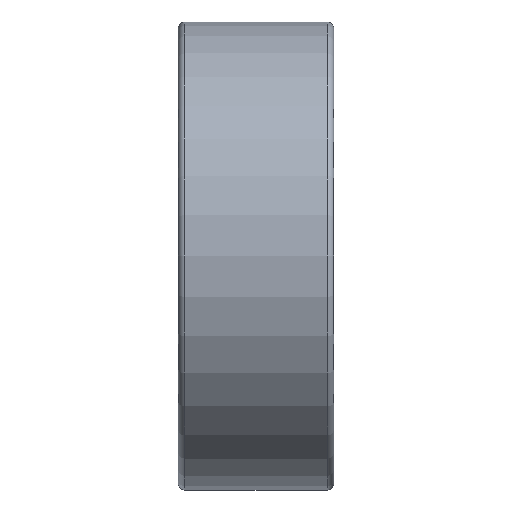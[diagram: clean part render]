
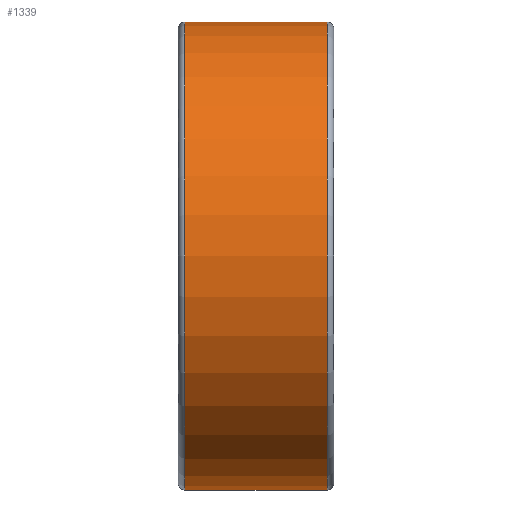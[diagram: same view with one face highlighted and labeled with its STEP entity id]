
A CAD part, front view. The second image highlights one B-rep face of the part: STEP entity #1339.
In plain terms, the highlighted cylindrical face has radius 140 mm (diameter 280 mm), a full revolution.
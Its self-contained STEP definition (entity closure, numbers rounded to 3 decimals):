
#215=CYLINDRICAL_SURFACE($,#1457,140.);
#273=FACE_BOUND($,#454,.T.);
#364=FACE_OUTER_BOUND($,#453,.T.);
#453=EDGE_LOOP($,(#1031));
#454=EDGE_LOOP($,(#1032));
#596=CIRCLE($,#1456,140.);
#597=CIRCLE($,#1458,140.);
#724=VERTEX_POINT($,#2227);
#725=VERTEX_POINT($,#2230);
#852=EDGE_CURVE($,#724,#724,#596,.T.);
#853=EDGE_CURVE($,#725,#725,#597,.T.);
#1031=ORIENTED_EDGE($,*,*,#852,.T.);
#1032=ORIENTED_EDGE($,*,*,#853,.F.);
#1339=ADVANCED_FACE($,(#364,#273),#215,.T.);
#1456=AXIS2_PLACEMENT_3D($,#2228,#1738,#1739);
#1457=AXIS2_PLACEMENT_3D($,#2229,#1740,#1741);
#1458=AXIS2_PLACEMENT_3D($,#2231,#1742,#1743);
#1738=DIRECTION('center_axis',(-1.,0.,0.));
#1739=DIRECTION('ref_axis',(0.,0.,1.));
#1740=DIRECTION('center_axis',(-1.,0.,0.));
#1741=DIRECTION('ref_axis',(0.,-1.,0.));
#1742=DIRECTION('center_axis',(-1.,0.,0.));
#1743=DIRECTION('ref_axis',(0.,0.,1.));
#2227=CARTESIAN_POINT('',(75.,-140.,0.));
#2228=CARTESIAN_POINT('Origin',(75.,0.,0.));
#2229=CARTESIAN_POINT('Origin',(32.5,0.,0.));
#2230=CARTESIAN_POINT('',(-10.,-140.,0.));
#2231=CARTESIAN_POINT('Origin',(-10.,0.,0.));
